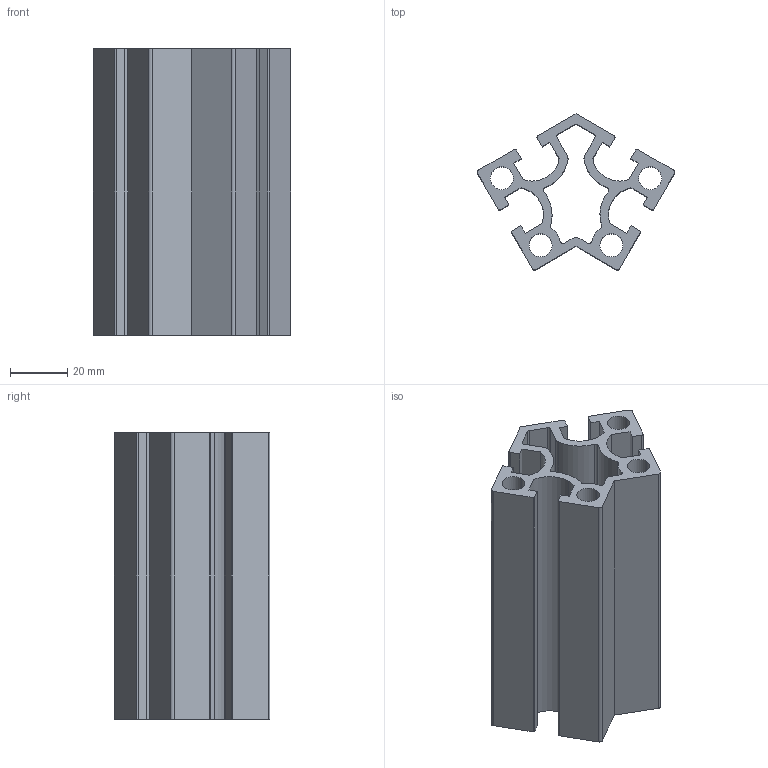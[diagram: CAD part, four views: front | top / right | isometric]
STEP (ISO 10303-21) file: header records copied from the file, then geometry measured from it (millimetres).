
FILE_DESCRIPTION (( 'STEP AP203' ), '1' );
FILE_NAME ('WS4040120-8.STEP', '2024-02-19T05:38:50', ( '' ), ( '' ), 'SwSTEP 2.0', 'SolidWorks 2022', '' );
FILE_SCHEMA (( 'CONFIG_CONTROL_DESIGN' ));
Length unit declared in the file: millimetre
Products named in the file (1): WS4040120-8
Bounding box: 68.75 x 54.33 x 100 mm (x, y, z)
Volume: 89739.9 mm3; surface area: 56668.5 mm2
Topology: 1 solids, 1 shells, 93 faces, 273 edges, 182 vertices
Faces by surface type: cylinder 51, plane 42
Entity records: 3226 total; most frequent: DIRECTION 563, CARTESIAN_POINT 549, ORIENTED_EDGE 546, EDGE_CURVE 273, AXIS2_PLACEMENT_3D 196, VERTEX_POINT 182, LINE 171, VECTOR 171
